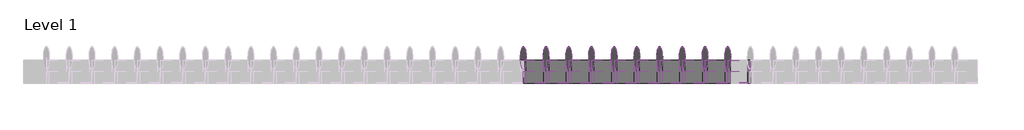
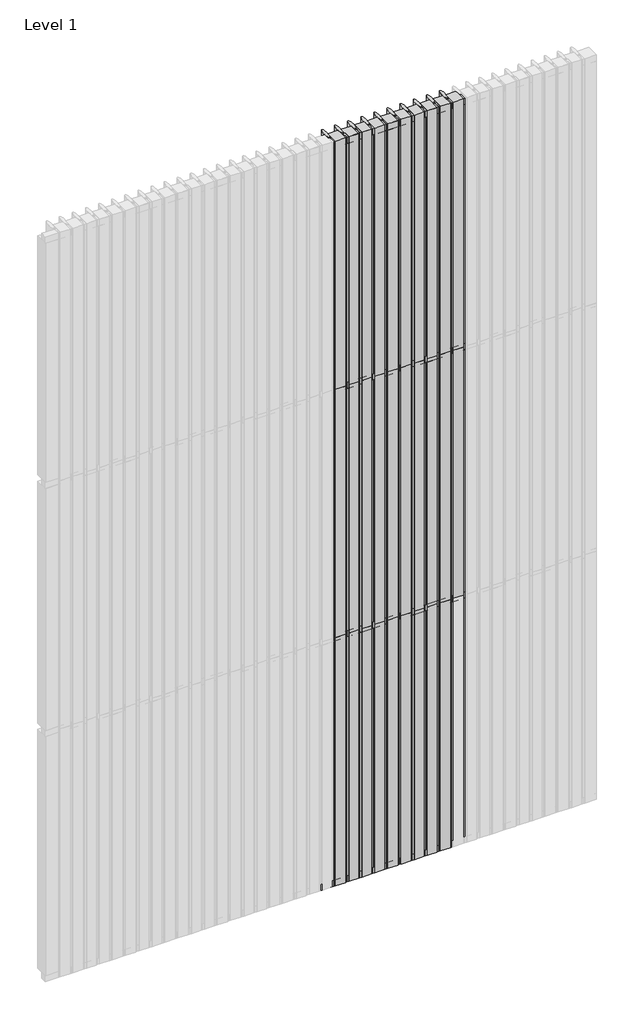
# One storey, part 5 of 6: 70 members, 59 plates.
"""IFC4 building model written with IfcOpenShell, lengths in millimetres."""

from ifc_helpers import new_model, si_unit, origin, place, context, project, spatial, transform, mapped, element, save
from components import rectangular_mullion_31e9810d, rectangular_mullion_cddbc660, rectangular_mullion_a3e25429, rectangular_mullion_ae434dd9, empty_system_panel_empty_de76a839, empty_system_panel_empty_5411477d, empty_system_panel_empty_c50988b4

model = new_model("IFC4")

# Units and contexts
model_context = context("Model", 3, world=origin())
ifc_project = project(units=[si_unit("LENGTHUNIT", "METRE", prefix="MILLI")], contexts=[model_context])

# Site, building, storey
site = spatial("IfcSite", under=ifc_project)
building = spatial("IfcBuilding", under=site)
storey = spatial("IfcBuildingStorey", under=building, Name="Level 1", Elevation=0.0)

# Members
placement = place(None, origin())
rectangular_mullion_shape = rectangular_mullion_31e9810d(model_context)
element("IfcMember", 1, ObjectType="Rectangular Mullion : RSen_21_CWM_blade - 100 ellips - 0°_gen_duco projects", at=placement, inside=storey, context=model_context, shape_type="MappedRepresentation", body=[
    mapped(rectangular_mullion_shape, transform((4900.0, 3000.0, 0.0), x_axis=(-1.0, 0.0, 0.0), y_axis=(0.0, 1.0, 0.0), z_axis=(0.0, 0.0, -1.0))),
])
element("IfcMember", 2, ObjectType="Rectangular Mullion : RSen_21_CWM_blade - 100 ellips - 0°_gen_duco projects", at=placement, inside=storey, context=model_context, shape_type="MappedRepresentation", body=[
    mapped(rectangular_mullion_shape, transform((4800.0, 3000.0, 0.0), x_axis=(-1.0, 0.0, 0.0), y_axis=(0.0, 1.0, 0.0), z_axis=(0.0, 0.0, -1.0))),
])
element("IfcMember", 3, ObjectType="Rectangular Mullion : RSen_21_CWM_blade - 100 ellips - 0°_gen_duco projects", at=placement, inside=storey, context=model_context, shape_type="MappedRepresentation", body=[
    mapped(rectangular_mullion_shape, transform((4700.0, 3000.0, 0.0), x_axis=(-1.0, 0.0, 0.0), y_axis=(0.0, 1.0, 0.0), z_axis=(0.0, 0.0, -1.0))),
])
element("IfcMember", 4, ObjectType="Rectangular Mullion : RSen_21_CWM_blade - 100 ellips - 0°_gen_duco projects", at=placement, inside=storey, context=model_context, shape_type="MappedRepresentation", body=[
    mapped(rectangular_mullion_shape, transform((4600.0, 3000.0, 0.0), x_axis=(-1.0, 0.0, 0.0), y_axis=(0.0, 1.0, 0.0), z_axis=(0.0, 0.0, -1.0))),
])
element("IfcMember", 5, ObjectType="Rectangular Mullion : RSen_21_CWM_blade - 100 ellips - 0°_gen_duco projects", at=placement, inside=storey, context=model_context, shape_type="MappedRepresentation", body=[
    mapped(rectangular_mullion_shape, transform((4500.0, 3000.0, 0.0), x_axis=(-1.0, 0.0, 0.0), y_axis=(0.0, 1.0, 0.0), z_axis=(0.0, 0.0, -1.0))),
])
element("IfcMember", 6, ObjectType="Rectangular Mullion : RSen_21_CWM_blade - 100 ellips - 0°_gen_duco projects", at=placement, inside=storey, context=model_context, shape_type="MappedRepresentation", body=[
    mapped(rectangular_mullion_shape, transform((4400.0, 3000.0, 0.0), x_axis=(-1.0, 0.0, 0.0), y_axis=(0.0, 1.0, 0.0), z_axis=(0.0, 0.0, -1.0))),
])
element("IfcMember", 7, ObjectType="Rectangular Mullion : RSen_21_CWM_blade - 100 ellips - 0°_gen_duco projects", at=placement, inside=storey, context=model_context, shape_type="MappedRepresentation", body=[
    mapped(rectangular_mullion_shape, transform((4300.0, 3000.0, 0.0), x_axis=(-1.0, 0.0, 0.0), y_axis=(0.0, 1.0, 0.0), z_axis=(0.0, 0.0, -1.0))),
])
element("IfcMember", 8, ObjectType="Rectangular Mullion : RSen_21_CWM_blade - 100 ellips - 0°_gen_duco projects", at=placement, inside=storey, context=model_context, shape_type="MappedRepresentation", body=[
    mapped(rectangular_mullion_shape, transform((4200.0, 3000.0, 0.0), x_axis=(-1.0, 0.0, 0.0), y_axis=(0.0, 1.0, 0.0), z_axis=(0.0, 0.0, -1.0))),
])
element("IfcMember", 9, ObjectType="Rectangular Mullion : RSen_21_CWM_blade - 100 ellips - 0°_gen_duco projects", at=placement, inside=storey, context=model_context, shape_type="MappedRepresentation", body=[
    mapped(rectangular_mullion_shape, transform((4100.0, 3000.0, 0.0), x_axis=(-1.0, 0.0, 0.0), y_axis=(0.0, 1.0, 0.0), z_axis=(0.0, 0.0, -1.0))),
])
element("IfcMember", 10, ObjectType="Rectangular Mullion : RSen_21_CWM_blade - 100 ellips - 0°_gen_duco projects", at=placement, inside=storey, context=model_context, shape_type="MappedRepresentation", body=[
    mapped(rectangular_mullion_shape, transform((4000.0, 3000.0, 0.0), x_axis=(-1.0, 0.0, 0.0), y_axis=(0.0, 1.0, 0.0), z_axis=(0.0, 0.0, -1.0))),
])
element("IfcMember", 11, ObjectType="Rectangular Mullion : RSen_21_CWM_blade - 100 ellips - 0°_gen_duco projects", at=placement, inside=storey, context=model_context, shape_type="MappedRepresentation", body=[
    mapped(rectangular_mullion_shape, transform((4900.0, 3000.0, 2000.0), x_axis=(-1.0, 0.0, 0.0), y_axis=(0.0, 1.0, 0.0), z_axis=(0.0, 0.0, -1.0))),
])
element("IfcMember", 12, ObjectType="Rectangular Mullion : RSen_21_CWM_blade - 100 ellips - 0°_gen_duco projects", at=placement, inside=storey, context=model_context, shape_type="MappedRepresentation", body=[
    mapped(rectangular_mullion_shape, transform((4800.0, 3000.0, 2000.0), x_axis=(-1.0, 0.0, 0.0), y_axis=(0.0, 1.0, 0.0), z_axis=(0.0, 0.0, -1.0))),
])
element("IfcMember", 13, ObjectType="Rectangular Mullion : RSen_21_CWM_blade - 100 ellips - 0°_gen_duco projects", at=placement, inside=storey, context=model_context, shape_type="MappedRepresentation", body=[
    mapped(rectangular_mullion_shape, transform((4700.0, 3000.0, 2000.0), x_axis=(-1.0, 0.0, 0.0), y_axis=(0.0, 1.0, 0.0), z_axis=(0.0, 0.0, -1.0))),
])
element("IfcMember", 14, ObjectType="Rectangular Mullion : RSen_21_CWM_blade - 100 ellips - 0°_gen_duco projects", at=placement, inside=storey, context=model_context, shape_type="MappedRepresentation", body=[
    mapped(rectangular_mullion_shape, transform((4600.0, 3000.0, 2000.0), x_axis=(-1.0, 0.0, 0.0), y_axis=(0.0, 1.0, 0.0), z_axis=(0.0, 0.0, -1.0))),
])
element("IfcMember", 15, ObjectType="Rectangular Mullion : RSen_21_CWM_blade - 100 ellips - 0°_gen_duco projects", at=placement, inside=storey, context=model_context, shape_type="MappedRepresentation", body=[
    mapped(rectangular_mullion_shape, transform((4500.0, 3000.0, 2000.0), x_axis=(-1.0, 0.0, 0.0), y_axis=(0.0, 1.0, 0.0), z_axis=(0.0, 0.0, -1.0))),
])
element("IfcMember", 16, ObjectType="Rectangular Mullion : RSen_21_CWM_blade - 100 ellips - 0°_gen_duco projects", at=placement, inside=storey, context=model_context, shape_type="MappedRepresentation", body=[
    mapped(rectangular_mullion_shape, transform((4400.0, 3000.0, 2000.0), x_axis=(-1.0, 0.0, 0.0), y_axis=(0.0, 1.0, 0.0), z_axis=(0.0, 0.0, -1.0))),
])
element("IfcMember", 17, ObjectType="Rectangular Mullion : RSen_21_CWM_blade - 100 ellips - 0°_gen_duco projects", at=placement, inside=storey, context=model_context, shape_type="MappedRepresentation", body=[
    mapped(rectangular_mullion_shape, transform((4300.0, 3000.0, 2000.0), x_axis=(-1.0, 0.0, 0.0), y_axis=(0.0, 1.0, 0.0), z_axis=(0.0, 0.0, -1.0))),
])
element("IfcMember", 18, ObjectType="Rectangular Mullion : RSen_21_CWM_blade - 100 ellips - 0°_gen_duco projects", at=placement, inside=storey, context=model_context, shape_type="MappedRepresentation", body=[
    mapped(rectangular_mullion_shape, transform((4200.0, 3000.0, 2000.0), x_axis=(-1.0, 0.0, 0.0), y_axis=(0.0, 1.0, 0.0), z_axis=(0.0, 0.0, -1.0))),
])
element("IfcMember", 19, ObjectType="Rectangular Mullion : RSen_21_CWM_blade - 100 ellips - 0°_gen_duco projects", at=placement, inside=storey, context=model_context, shape_type="MappedRepresentation", body=[
    mapped(rectangular_mullion_shape, transform((4100.0, 3000.0, 2000.0), x_axis=(-1.0, 0.0, 0.0), y_axis=(0.0, 1.0, 0.0), z_axis=(0.0, 0.0, -1.0))),
])
element("IfcMember", 20, ObjectType="Rectangular Mullion : RSen_21_CWM_blade - 100 ellips - 0°_gen_duco projects", at=placement, inside=storey, context=model_context, shape_type="MappedRepresentation", body=[
    mapped(rectangular_mullion_shape, transform((4000.0, 3000.0, 2000.0), x_axis=(-1.0, 0.0, 0.0), y_axis=(0.0, 1.0, 0.0), z_axis=(0.0, 0.0, -1.0))),
])
element("IfcMember", 21, ObjectType="Rectangular Mullion : RSen_21_CWM_blade - 100 ellips - 0°_gen_duco projects", at=placement, inside=storey, context=model_context, shape_type="MappedRepresentation", body=[
    mapped(rectangular_mullion_shape, transform((4900.0, 3000.0, 4000.0), x_axis=(-1.0, 0.0, 0.0), y_axis=(0.0, 1.0, 0.0), z_axis=(0.0, 0.0, -1.0))),
])
element("IfcMember", 22, ObjectType="Rectangular Mullion : RSen_21_CWM_blade - 100 ellips - 0°_gen_duco projects", at=placement, inside=storey, context=model_context, shape_type="MappedRepresentation", body=[
    mapped(rectangular_mullion_shape, transform((4800.0, 3000.0, 4000.0), x_axis=(-1.0, 0.0, 0.0), y_axis=(0.0, 1.0, 0.0), z_axis=(0.0, 0.0, -1.0))),
])
element("IfcMember", 23, ObjectType="Rectangular Mullion : RSen_21_CWM_blade - 100 ellips - 0°_gen_duco projects", at=placement, inside=storey, context=model_context, shape_type="MappedRepresentation", body=[
    mapped(rectangular_mullion_shape, transform((4700.0, 3000.0, 4000.0), x_axis=(-1.0, 0.0, 0.0), y_axis=(0.0, 1.0, 0.0), z_axis=(0.0, 0.0, -1.0))),
])
element("IfcMember", 24, ObjectType="Rectangular Mullion : RSen_21_CWM_blade - 100 ellips - 0°_gen_duco projects", at=placement, inside=storey, context=model_context, shape_type="MappedRepresentation", body=[
    mapped(rectangular_mullion_shape, transform((4600.0, 3000.0, 4000.0), x_axis=(-1.0, 0.0, 0.0), y_axis=(0.0, 1.0, 0.0), z_axis=(0.0, 0.0, -1.0))),
])
element("IfcMember", 25, ObjectType="Rectangular Mullion : RSen_21_CWM_blade - 100 ellips - 0°_gen_duco projects", at=placement, inside=storey, context=model_context, shape_type="MappedRepresentation", body=[
    mapped(rectangular_mullion_shape, transform((4500.0, 3000.0, 4000.0), x_axis=(-1.0, 0.0, 0.0), y_axis=(0.0, 1.0, 0.0), z_axis=(0.0, 0.0, -1.0))),
])
element("IfcMember", 26, ObjectType="Rectangular Mullion : RSen_21_CWM_blade - 100 ellips - 0°_gen_duco projects", at=placement, inside=storey, context=model_context, shape_type="MappedRepresentation", body=[
    mapped(rectangular_mullion_shape, transform((4400.0, 3000.0, 4000.0), x_axis=(-1.0, 0.0, 0.0), y_axis=(0.0, 1.0, 0.0), z_axis=(0.0, 0.0, -1.0))),
])
element("IfcMember", 27, ObjectType="Rectangular Mullion : RSen_21_CWM_blade - 100 ellips - 0°_gen_duco projects", at=placement, inside=storey, context=model_context, shape_type="MappedRepresentation", body=[
    mapped(rectangular_mullion_shape, transform((4300.0, 3000.0, 4000.0), x_axis=(-1.0, 0.0, 0.0), y_axis=(0.0, 1.0, 0.0), z_axis=(0.0, 0.0, -1.0))),
])
element("IfcMember", 28, ObjectType="Rectangular Mullion : RSen_21_CWM_blade - 100 ellips - 0°_gen_duco projects", at=placement, inside=storey, context=model_context, shape_type="MappedRepresentation", body=[
    mapped(rectangular_mullion_shape, transform((4200.0, 3000.0, 4000.0), x_axis=(-1.0, 0.0, 0.0), y_axis=(0.0, 1.0, 0.0), z_axis=(0.0, 0.0, -1.0))),
])
element("IfcMember", 29, ObjectType="Rectangular Mullion : RSen_21_CWM_blade - 100 ellips - 0°_gen_duco projects", at=placement, inside=storey, context=model_context, shape_type="MappedRepresentation", body=[
    mapped(rectangular_mullion_shape, transform((4100.0, 3000.0, 4000.0), x_axis=(-1.0, 0.0, 0.0), y_axis=(0.0, 1.0, 0.0), z_axis=(0.0, 0.0, -1.0))),
])
element("IfcMember", 30, ObjectType="Rectangular Mullion : RSen_21_CWM_blade - 100 ellips - 0°_gen_duco projects", at=placement, inside=storey, context=model_context, shape_type="MappedRepresentation", body=[
    mapped(rectangular_mullion_shape, transform((4000.0, 3000.0, 4000.0), x_axis=(-1.0, 0.0, 0.0), y_axis=(0.0, 1.0, 0.0), z_axis=(0.0, 0.0, -1.0))),
])
rectangular_mullion_2_shape = rectangular_mullion_cddbc660(model_context)
element("IfcMember", 31, ObjectType="Rectangular Mullion : RSen_21_CWM_support profile 50x50 - left_gen_duco projects", at=placement, inside=storey, context=model_context, shape_type="MappedRepresentation", body=[
    mapped(rectangular_mullion_2_shape, transform((4900.0, 3000.0, 6000.0), x_axis=(0.0, 0.0, 1.0), y_axis=(0.0, 1.0, 0.0), z_axis=(-1.0, 0.0, 0.0))),
])
element("IfcMember", 32, ObjectType="Rectangular Mullion : RSen_21_CWM_support profile 50x50 - left_gen_duco projects", at=placement, inside=storey, context=model_context, shape_type="MappedRepresentation", body=[
    mapped(rectangular_mullion_2_shape, transform((4800.0, 3000.0, 6000.0), x_axis=(0.0, 0.0, 1.0), y_axis=(0.0, 1.0, 0.0), z_axis=(-1.0, 0.0, 0.0))),
])
element("IfcMember", 33, ObjectType="Rectangular Mullion : RSen_21_CWM_support profile 50x50 - left_gen_duco projects", at=placement, inside=storey, context=model_context, shape_type="MappedRepresentation", body=[
    mapped(rectangular_mullion_2_shape, transform((4700.0, 3000.0, 6000.0), x_axis=(0.0, 0.0, 1.0), y_axis=(0.0, 1.0, 0.0), z_axis=(-1.0, 0.0, 0.0))),
])
element("IfcMember", 34, ObjectType="Rectangular Mullion : RSen_21_CWM_support profile 50x50 - left_gen_duco projects", at=placement, inside=storey, context=model_context, shape_type="MappedRepresentation", body=[
    mapped(rectangular_mullion_2_shape, transform((4600.0, 3000.0, 6000.0), x_axis=(0.0, 0.0, 1.0), y_axis=(0.0, 1.0, 0.0), z_axis=(-1.0, 0.0, 0.0))),
])
element("IfcMember", 35, ObjectType="Rectangular Mullion : RSen_21_CWM_support profile 50x50 - left_gen_duco projects", at=placement, inside=storey, context=model_context, shape_type="MappedRepresentation", body=[
    mapped(rectangular_mullion_2_shape, transform((4500.0, 3000.0, 6000.0), x_axis=(0.0, 0.0, 1.0), y_axis=(0.0, 1.0, 0.0), z_axis=(-1.0, 0.0, 0.0))),
])
element("IfcMember", 36, ObjectType="Rectangular Mullion : RSen_21_CWM_support profile 50x50 - left_gen_duco projects", at=placement, inside=storey, context=model_context, shape_type="MappedRepresentation", body=[
    mapped(rectangular_mullion_2_shape, transform((4400.0, 3000.0, 6000.0), x_axis=(0.0, 0.0, 1.0), y_axis=(0.0, 1.0, 0.0), z_axis=(-1.0, 0.0, 0.0))),
])
element("IfcMember", 37, ObjectType="Rectangular Mullion : RSen_21_CWM_support profile 50x50 - left_gen_duco projects", at=placement, inside=storey, context=model_context, shape_type="MappedRepresentation", body=[
    mapped(rectangular_mullion_2_shape, transform((4300.0, 3000.0, 6000.0), x_axis=(0.0, 0.0, 1.0), y_axis=(0.0, 1.0, 0.0), z_axis=(-1.0, 0.0, 0.0))),
])
element("IfcMember", 38, ObjectType="Rectangular Mullion : RSen_21_CWM_support profile 50x50 - left_gen_duco projects", at=placement, inside=storey, context=model_context, shape_type="MappedRepresentation", body=[
    mapped(rectangular_mullion_2_shape, transform((4200.0, 3000.0, 6000.0), x_axis=(0.0, 0.0, 1.0), y_axis=(0.0, 1.0, 0.0), z_axis=(-1.0, 0.0, 0.0))),
])
element("IfcMember", 39, ObjectType="Rectangular Mullion : RSen_21_CWM_support profile 50x50 - left_gen_duco projects", at=placement, inside=storey, context=model_context, shape_type="MappedRepresentation", body=[
    mapped(rectangular_mullion_2_shape, transform((4100.0, 3000.0, 6000.0), x_axis=(0.0, 0.0, 1.0), y_axis=(0.0, 1.0, 0.0), z_axis=(-1.0, 0.0, 0.0))),
])
element("IfcMember", 40, ObjectType="Rectangular Mullion : RSen_21_CWM_support profile 50x50 - left_gen_duco projects", at=placement, inside=storey, context=model_context, shape_type="MappedRepresentation", body=[
    mapped(rectangular_mullion_2_shape, transform((4000.0, 3000.0, 6000.0), x_axis=(0.0, 0.0, 1.0), y_axis=(0.0, 1.0, 0.0), z_axis=(-1.0, 0.0, 0.0))),
])
rectangular_mullion_3_shape = rectangular_mullion_a3e25429(model_context)
element("IfcMember", 41, ObjectType="Rectangular Mullion : RSen_21_CWM_support profile 50x50 - right_gen_duco projects", at=placement, inside=storey, context=model_context, shape_type="MappedRepresentation", body=[
    mapped(rectangular_mullion_3_shape, transform((4900.0, 3000.0, 0.0), x_axis=(0.0, 0.0, -1.0), y_axis=(0.0, 1.0, 0.0), z_axis=(1.0, 0.0, 0.0))),
])
element("IfcMember", 42, ObjectType="Rectangular Mullion : RSen_21_CWM_support profile 50x50 - right_gen_duco projects", at=placement, inside=storey, context=model_context, shape_type="MappedRepresentation", body=[
    mapped(rectangular_mullion_3_shape, transform((4800.0, 3000.0, 0.0), x_axis=(0.0, 0.0, -1.0), y_axis=(0.0, 1.0, 0.0), z_axis=(1.0, 0.0, 0.0))),
])
element("IfcMember", 43, ObjectType="Rectangular Mullion : RSen_21_CWM_support profile 50x50 - right_gen_duco projects", at=placement, inside=storey, context=model_context, shape_type="MappedRepresentation", body=[
    mapped(rectangular_mullion_3_shape, transform((4700.0, 3000.0, 0.0), x_axis=(0.0, 0.0, -1.0), y_axis=(0.0, 1.0, 0.0), z_axis=(1.0, 0.0, 0.0))),
])
element("IfcMember", 44, ObjectType="Rectangular Mullion : RSen_21_CWM_support profile 50x50 - right_gen_duco projects", at=placement, inside=storey, context=model_context, shape_type="MappedRepresentation", body=[
    mapped(rectangular_mullion_3_shape, transform((4600.0, 3000.0, 0.0), x_axis=(0.0, 0.0, -1.0), y_axis=(0.0, 1.0, 0.0), z_axis=(1.0, 0.0, 0.0))),
])
element("IfcMember", 45, ObjectType="Rectangular Mullion : RSen_21_CWM_support profile 50x50 - right_gen_duco projects", at=placement, inside=storey, context=model_context, shape_type="MappedRepresentation", body=[
    mapped(rectangular_mullion_3_shape, transform((4500.0, 3000.0, 0.0), x_axis=(0.0, 0.0, -1.0), y_axis=(0.0, 1.0, 0.0), z_axis=(1.0, 0.0, 0.0))),
])
element("IfcMember", 46, ObjectType="Rectangular Mullion : RSen_21_CWM_support profile 50x50 - right_gen_duco projects", at=placement, inside=storey, context=model_context, shape_type="MappedRepresentation", body=[
    mapped(rectangular_mullion_3_shape, transform((4400.0, 3000.0, 0.0), x_axis=(0.0, 0.0, -1.0), y_axis=(0.0, 1.0, 0.0), z_axis=(1.0, 0.0, 0.0))),
])
element("IfcMember", 47, ObjectType="Rectangular Mullion : RSen_21_CWM_support profile 50x50 - right_gen_duco projects", at=placement, inside=storey, context=model_context, shape_type="MappedRepresentation", body=[
    mapped(rectangular_mullion_3_shape, transform((4300.0, 3000.0, 0.0), x_axis=(0.0, 0.0, -1.0), y_axis=(0.0, 1.0, 0.0), z_axis=(1.0, 0.0, 0.0))),
])
element("IfcMember", 48, ObjectType="Rectangular Mullion : RSen_21_CWM_support profile 50x50 - right_gen_duco projects", at=placement, inside=storey, context=model_context, shape_type="MappedRepresentation", body=[
    mapped(rectangular_mullion_3_shape, transform((4200.0, 3000.0, 0.0), x_axis=(0.0, 0.0, -1.0), y_axis=(0.0, 1.0, 0.0), z_axis=(1.0, 0.0, 0.0))),
])
element("IfcMember", 49, ObjectType="Rectangular Mullion : RSen_21_CWM_support profile 50x50 - right_gen_duco projects", at=placement, inside=storey, context=model_context, shape_type="MappedRepresentation", body=[
    mapped(rectangular_mullion_3_shape, transform((4100.0, 3000.0, 0.0), x_axis=(0.0, 0.0, -1.0), y_axis=(0.0, 1.0, 0.0), z_axis=(1.0, 0.0, 0.0))),
])
element("IfcMember", 50, ObjectType="Rectangular Mullion : RSen_21_CWM_support profile 50x50 - right_gen_duco projects", at=placement, inside=storey, context=model_context, shape_type="MappedRepresentation", body=[
    mapped(rectangular_mullion_3_shape, transform((4000.0, 3000.0, 0.0), x_axis=(0.0, 0.0, -1.0), y_axis=(0.0, 1.0, 0.0), z_axis=(1.0, 0.0, 0.0))),
])
rectangular_mullion_4_shape = rectangular_mullion_ae434dd9(model_context)
element("IfcMember", 51, ObjectType="Rectangular Mullion : RSen_21_CWM_support profile 50x50_gen_duco projects", at=placement, inside=storey, context=model_context, shape_type="MappedRepresentation", body=[
    mapped(rectangular_mullion_4_shape, transform((4900.0, 3000.0, 2000.0), x_axis=(0.0, 0.0, 1.0), y_axis=(0.0, 1.0, 0.0), z_axis=(-1.0, 0.0, 0.0))),
])
element("IfcMember", 52, ObjectType="Rectangular Mullion : RSen_21_CWM_support profile 50x50_gen_duco projects", at=placement, inside=storey, context=model_context, shape_type="MappedRepresentation", body=[
    mapped(rectangular_mullion_4_shape, transform((4800.0, 3000.0, 2000.0), x_axis=(0.0, 0.0, 1.0), y_axis=(0.0, 1.0, 0.0), z_axis=(-1.0, 0.0, 0.0))),
])
element("IfcMember", 53, ObjectType="Rectangular Mullion : RSen_21_CWM_support profile 50x50_gen_duco projects", at=placement, inside=storey, context=model_context, shape_type="MappedRepresentation", body=[
    mapped(rectangular_mullion_4_shape, transform((4700.0, 3000.0, 2000.0), x_axis=(0.0, 0.0, 1.0), y_axis=(0.0, 1.0, 0.0), z_axis=(-1.0, 0.0, 0.0))),
])
element("IfcMember", 54, ObjectType="Rectangular Mullion : RSen_21_CWM_support profile 50x50_gen_duco projects", at=placement, inside=storey, context=model_context, shape_type="MappedRepresentation", body=[
    mapped(rectangular_mullion_4_shape, transform((4600.0, 3000.0, 2000.0), x_axis=(0.0, 0.0, 1.0), y_axis=(0.0, 1.0, 0.0), z_axis=(-1.0, 0.0, 0.0))),
])
element("IfcMember", 55, ObjectType="Rectangular Mullion : RSen_21_CWM_support profile 50x50_gen_duco projects", at=placement, inside=storey, context=model_context, shape_type="MappedRepresentation", body=[
    mapped(rectangular_mullion_4_shape, transform((4500.0, 3000.0, 2000.0), x_axis=(0.0, 0.0, 1.0), y_axis=(0.0, 1.0, 0.0), z_axis=(-1.0, 0.0, 0.0))),
])
element("IfcMember", 56, ObjectType="Rectangular Mullion : RSen_21_CWM_support profile 50x50_gen_duco projects", at=placement, inside=storey, context=model_context, shape_type="MappedRepresentation", body=[
    mapped(rectangular_mullion_4_shape, transform((4400.0, 3000.0, 2000.0), x_axis=(0.0, 0.0, 1.0), y_axis=(0.0, 1.0, 0.0), z_axis=(-1.0, 0.0, 0.0))),
])
element("IfcMember", 57, ObjectType="Rectangular Mullion : RSen_21_CWM_support profile 50x50_gen_duco projects", at=placement, inside=storey, context=model_context, shape_type="MappedRepresentation", body=[
    mapped(rectangular_mullion_4_shape, transform((4300.0, 3000.0, 2000.0), x_axis=(0.0, 0.0, 1.0), y_axis=(0.0, 1.0, 0.0), z_axis=(-1.0, 0.0, 0.0))),
])
element("IfcMember", 58, ObjectType="Rectangular Mullion : RSen_21_CWM_support profile 50x50_gen_duco projects", at=placement, inside=storey, context=model_context, shape_type="MappedRepresentation", body=[
    mapped(rectangular_mullion_4_shape, transform((4200.0, 3000.0, 2000.0), x_axis=(0.0, 0.0, 1.0), y_axis=(0.0, 1.0, 0.0), z_axis=(-1.0, 0.0, 0.0))),
])
element("IfcMember", 59, ObjectType="Rectangular Mullion : RSen_21_CWM_support profile 50x50_gen_duco projects", at=placement, inside=storey, context=model_context, shape_type="MappedRepresentation", body=[
    mapped(rectangular_mullion_4_shape, transform((4100.0, 3000.0, 2000.0), x_axis=(0.0, 0.0, 1.0), y_axis=(0.0, 1.0, 0.0), z_axis=(-1.0, 0.0, 0.0))),
])
element("IfcMember", 60, ObjectType="Rectangular Mullion : RSen_21_CWM_support profile 50x50_gen_duco projects", at=placement, inside=storey, context=model_context, shape_type="MappedRepresentation", body=[
    mapped(rectangular_mullion_4_shape, transform((4000.0, 3000.0, 2000.0), x_axis=(0.0, 0.0, 1.0), y_axis=(0.0, 1.0, 0.0), z_axis=(-1.0, 0.0, 0.0))),
])
element("IfcMember", 61, ObjectType="Rectangular Mullion : RSen_21_CWM_support profile 50x50_gen_duco projects", at=placement, inside=storey, context=model_context, shape_type="MappedRepresentation", body=[
    mapped(rectangular_mullion_4_shape, transform((4900.0, 3000.0, 4000.0), x_axis=(0.0, 0.0, 1.0), y_axis=(0.0, 1.0, 0.0), z_axis=(-1.0, 0.0, 0.0))),
])
element("IfcMember", 62, ObjectType="Rectangular Mullion : RSen_21_CWM_support profile 50x50_gen_duco projects", at=placement, inside=storey, context=model_context, shape_type="MappedRepresentation", body=[
    mapped(rectangular_mullion_4_shape, transform((4800.0, 3000.0, 4000.0), x_axis=(0.0, 0.0, 1.0), y_axis=(0.0, 1.0, 0.0), z_axis=(-1.0, 0.0, 0.0))),
])
element("IfcMember", 63, ObjectType="Rectangular Mullion : RSen_21_CWM_support profile 50x50_gen_duco projects", at=placement, inside=storey, context=model_context, shape_type="MappedRepresentation", body=[
    mapped(rectangular_mullion_4_shape, transform((4700.0, 3000.0, 4000.0), x_axis=(0.0, 0.0, 1.0), y_axis=(0.0, 1.0, 0.0), z_axis=(-1.0, 0.0, 0.0))),
])
element("IfcMember", 64, ObjectType="Rectangular Mullion : RSen_21_CWM_support profile 50x50_gen_duco projects", at=placement, inside=storey, context=model_context, shape_type="MappedRepresentation", body=[
    mapped(rectangular_mullion_4_shape, transform((4600.0, 3000.0, 4000.0), x_axis=(0.0, 0.0, 1.0), y_axis=(0.0, 1.0, 0.0), z_axis=(-1.0, 0.0, 0.0))),
])
element("IfcMember", 65, ObjectType="Rectangular Mullion : RSen_21_CWM_support profile 50x50_gen_duco projects", at=placement, inside=storey, context=model_context, shape_type="MappedRepresentation", body=[
    mapped(rectangular_mullion_4_shape, transform((4500.0, 3000.0, 4000.0), x_axis=(0.0, 0.0, 1.0), y_axis=(0.0, 1.0, 0.0), z_axis=(-1.0, 0.0, 0.0))),
])
element("IfcMember", 66, ObjectType="Rectangular Mullion : RSen_21_CWM_support profile 50x50_gen_duco projects", at=placement, inside=storey, context=model_context, shape_type="MappedRepresentation", body=[
    mapped(rectangular_mullion_4_shape, transform((4400.0, 3000.0, 4000.0), x_axis=(0.0, 0.0, 1.0), y_axis=(0.0, 1.0, 0.0), z_axis=(-1.0, 0.0, 0.0))),
])
element("IfcMember", 67, ObjectType="Rectangular Mullion : RSen_21_CWM_support profile 50x50_gen_duco projects", at=placement, inside=storey, context=model_context, shape_type="MappedRepresentation", body=[
    mapped(rectangular_mullion_4_shape, transform((4300.0, 3000.0, 4000.0), x_axis=(0.0, 0.0, 1.0), y_axis=(0.0, 1.0, 0.0), z_axis=(-1.0, 0.0, 0.0))),
])
element("IfcMember", 68, ObjectType="Rectangular Mullion : RSen_21_CWM_support profile 50x50_gen_duco projects", at=placement, inside=storey, context=model_context, shape_type="MappedRepresentation", body=[
    mapped(rectangular_mullion_4_shape, transform((4200.0, 3000.0, 4000.0), x_axis=(0.0, 0.0, 1.0), y_axis=(0.0, 1.0, 0.0), z_axis=(-1.0, 0.0, 0.0))),
])
element("IfcMember", 69, ObjectType="Rectangular Mullion : RSen_21_CWM_support profile 50x50_gen_duco projects", at=placement, inside=storey, context=model_context, shape_type="MappedRepresentation", body=[
    mapped(rectangular_mullion_4_shape, transform((4100.0, 3000.0, 4000.0), x_axis=(0.0, 0.0, 1.0), y_axis=(0.0, 1.0, 0.0), z_axis=(-1.0, 0.0, 0.0))),
])
element("IfcMember", 70, ObjectType="Rectangular Mullion : RSen_21_CWM_support profile 50x50_gen_duco projects", at=placement, inside=storey, context=model_context, shape_type="MappedRepresentation", body=[
    mapped(rectangular_mullion_4_shape, transform((4000.0, 3000.0, 4000.0), x_axis=(0.0, 0.0, 1.0), y_axis=(0.0, 1.0, 0.0), z_axis=(-1.0, 0.0, 0.0))),
])

# Plates
empty_system_panel_empty_shape = empty_system_panel_empty_de76a839(model_context)
element("IfcPlate", 71, ObjectType="Empty System Panel : Empty", at=placement, inside=storey, context=model_context, shape_type="MappedRepresentation", body=[
    mapped(empty_system_panel_empty_shape, transform((4850.0, 3000.0, 0.0), x_axis=(-1.0, 0.0, 0.0), y_axis=(0.0, -1.0, 0.0), z_axis=(0.0, 0.0, 1.0))),
])
element("IfcPlate", 72, ObjectType="Empty System Panel : Empty", at=placement, inside=storey, context=model_context, shape_type="MappedRepresentation", body=[
    mapped(empty_system_panel_empty_shape, transform((4750.0, 3000.0, 0.0), x_axis=(-1.0, 0.0, 0.0), y_axis=(0.0, -1.0, 0.0), z_axis=(0.0, 0.0, 1.0))),
])
element("IfcPlate", 73, ObjectType="Empty System Panel : Empty", at=placement, inside=storey, context=model_context, shape_type="MappedRepresentation", body=[
    mapped(empty_system_panel_empty_shape, transform((4650.0, 3000.0, 0.0), x_axis=(-1.0, 0.0, 0.0), y_axis=(0.0, -1.0, 0.0), z_axis=(0.0, 0.0, 1.0))),
])
element("IfcPlate", 74, ObjectType="Empty System Panel : Empty", at=placement, inside=storey, context=model_context, shape_type="MappedRepresentation", body=[
    mapped(empty_system_panel_empty_shape, transform((4550.0, 3000.0, 0.0), x_axis=(-1.0, 0.0, 0.0), y_axis=(0.0, -1.0, 0.0), z_axis=(0.0, 0.0, 1.0))),
])
element("IfcPlate", 75, ObjectType="Empty System Panel : Empty", at=placement, inside=storey, context=model_context, shape_type="MappedRepresentation", body=[
    mapped(empty_system_panel_empty_shape, transform((4450.0, 3000.0, 0.0), x_axis=(-1.0, 0.0, 0.0), y_axis=(0.0, -1.0, 0.0), z_axis=(0.0, 0.0, 1.0))),
])
element("IfcPlate", 76, ObjectType="Empty System Panel : Empty", at=placement, inside=storey, context=model_context, shape_type="MappedRepresentation", body=[
    mapped(empty_system_panel_empty_shape, transform((4350.0, 3000.0, 0.0), x_axis=(-1.0, 0.0, 0.0), y_axis=(0.0, -1.0, 0.0), z_axis=(0.0, 0.0, 1.0))),
])
element("IfcPlate", 77, ObjectType="Empty System Panel : Empty", at=placement, inside=storey, context=model_context, shape_type="MappedRepresentation", body=[
    mapped(empty_system_panel_empty_shape, transform((4250.0, 3000.0, 0.0), x_axis=(-1.0, 0.0, 0.0), y_axis=(0.0, -1.0, 0.0), z_axis=(0.0, 0.0, 1.0))),
])
element("IfcPlate", 78, ObjectType="Empty System Panel : Empty", at=placement, inside=storey, context=model_context, shape_type="MappedRepresentation", body=[
    mapped(empty_system_panel_empty_shape, transform((4150.0, 3000.0, 0.0), x_axis=(-1.0, 0.0, 0.0), y_axis=(0.0, -1.0, 0.0), z_axis=(0.0, 0.0, 1.0))),
])
element("IfcPlate", 79, ObjectType="Empty System Panel : Empty", at=placement, inside=storey, context=model_context, shape_type="MappedRepresentation", body=[
    mapped(empty_system_panel_empty_shape, transform((4050.0, 3000.0, 0.0), x_axis=(-1.0, 0.0, 0.0), y_axis=(0.0, -1.0, 0.0), z_axis=(0.0, 0.0, 1.0))),
])
element("IfcPlate", 80, ObjectType="Empty System Panel : Empty", at=placement, inside=storey, context=model_context, shape_type="MappedRepresentation", body=[
    mapped(empty_system_panel_empty_shape, transform((4950.0, 3000.0, 2000.0), x_axis=(-1.0, 0.0, 0.0), y_axis=(0.0, -1.0, 0.0), z_axis=(0.0, 0.0, 1.0))),
])
element("IfcPlate", 81, ObjectType="Empty System Panel : Empty", at=placement, inside=storey, context=model_context, shape_type="MappedRepresentation", body=[
    mapped(empty_system_panel_empty_shape, transform((4850.0, 3000.0, 2000.0), x_axis=(-1.0, 0.0, 0.0), y_axis=(0.0, -1.0, 0.0), z_axis=(0.0, 0.0, 1.0))),
])
element("IfcPlate", 82, ObjectType="Empty System Panel : Empty", at=placement, inside=storey, context=model_context, shape_type="MappedRepresentation", body=[
    mapped(empty_system_panel_empty_shape, transform((4750.0, 3000.0, 2000.0), x_axis=(-1.0, 0.0, 0.0), y_axis=(0.0, -1.0, 0.0), z_axis=(0.0, 0.0, 1.0))),
])
element("IfcPlate", 83, ObjectType="Empty System Panel : Empty", at=placement, inside=storey, context=model_context, shape_type="MappedRepresentation", body=[
    mapped(empty_system_panel_empty_shape, transform((4650.0, 3000.0, 2000.0), x_axis=(-1.0, 0.0, 0.0), y_axis=(0.0, -1.0, 0.0), z_axis=(0.0, 0.0, 1.0))),
])
element("IfcPlate", 84, ObjectType="Empty System Panel : Empty", at=placement, inside=storey, context=model_context, shape_type="MappedRepresentation", body=[
    mapped(empty_system_panel_empty_shape, transform((4550.0, 3000.0, 2000.0), x_axis=(-1.0, 0.0, 0.0), y_axis=(0.0, -1.0, 0.0), z_axis=(0.0, 0.0, 1.0))),
])
element("IfcPlate", 85, ObjectType="Empty System Panel : Empty", at=placement, inside=storey, context=model_context, shape_type="MappedRepresentation", body=[
    mapped(empty_system_panel_empty_shape, transform((4450.0, 3000.0, 2000.0), x_axis=(-1.0, 0.0, 0.0), y_axis=(0.0, -1.0, 0.0), z_axis=(0.0, 0.0, 1.0))),
])
element("IfcPlate", 86, ObjectType="Empty System Panel : Empty", at=placement, inside=storey, context=model_context, shape_type="MappedRepresentation", body=[
    mapped(empty_system_panel_empty_shape, transform((4350.0, 3000.0, 2000.0), x_axis=(-1.0, 0.0, 0.0), y_axis=(0.0, -1.0, 0.0), z_axis=(0.0, 0.0, 1.0))),
])
element("IfcPlate", 87, ObjectType="Empty System Panel : Empty", at=placement, inside=storey, context=model_context, shape_type="MappedRepresentation", body=[
    mapped(empty_system_panel_empty_shape, transform((4250.0, 3000.0, 2000.0), x_axis=(-1.0, 0.0, 0.0), y_axis=(0.0, -1.0, 0.0), z_axis=(0.0, 0.0, 1.0))),
])
element("IfcPlate", 88, ObjectType="Empty System Panel : Empty", at=placement, inside=storey, context=model_context, shape_type="MappedRepresentation", body=[
    mapped(empty_system_panel_empty_shape, transform((4150.0, 3000.0, 2000.0), x_axis=(-1.0, 0.0, 0.0), y_axis=(0.0, -1.0, 0.0), z_axis=(0.0, 0.0, 1.0))),
])
element("IfcPlate", 89, ObjectType="Empty System Panel : Empty", at=placement, inside=storey, context=model_context, shape_type="MappedRepresentation", body=[
    mapped(empty_system_panel_empty_shape, transform((4050.0, 3000.0, 2000.0), x_axis=(-1.0, 0.0, 0.0), y_axis=(0.0, -1.0, 0.0), z_axis=(0.0, 0.0, 1.0))),
])
element("IfcPlate", 90, ObjectType="Empty System Panel : Empty", at=placement, inside=storey, context=model_context, shape_type="MappedRepresentation", body=[
    mapped(empty_system_panel_empty_shape, transform((4950.0, 3000.0, 4000.0), x_axis=(-1.0, 0.0, 0.0), y_axis=(0.0, -1.0, 0.0), z_axis=(0.0, 0.0, 1.0))),
])
element("IfcPlate", 91, ObjectType="Empty System Panel : Empty", at=placement, inside=storey, context=model_context, shape_type="MappedRepresentation", body=[
    mapped(empty_system_panel_empty_shape, transform((4850.0, 3000.0, 4000.0), x_axis=(-1.0, 0.0, 0.0), y_axis=(0.0, -1.0, 0.0), z_axis=(0.0, 0.0, 1.0))),
])
element("IfcPlate", 92, ObjectType="Empty System Panel : Empty", at=placement, inside=storey, context=model_context, shape_type="MappedRepresentation", body=[
    mapped(empty_system_panel_empty_shape, transform((4750.0, 3000.0, 4000.0), x_axis=(-1.0, 0.0, 0.0), y_axis=(0.0, -1.0, 0.0), z_axis=(0.0, 0.0, 1.0))),
])
element("IfcPlate", 93, ObjectType="Empty System Panel : Empty", at=placement, inside=storey, context=model_context, shape_type="MappedRepresentation", body=[
    mapped(empty_system_panel_empty_shape, transform((4650.0, 3000.0, 4000.0), x_axis=(-1.0, 0.0, 0.0), y_axis=(0.0, -1.0, 0.0), z_axis=(0.0, 0.0, 1.0))),
])
element("IfcPlate", 94, ObjectType="Empty System Panel : Empty", at=placement, inside=storey, context=model_context, shape_type="MappedRepresentation", body=[
    mapped(empty_system_panel_empty_shape, transform((4550.0, 3000.0, 4000.0), x_axis=(-1.0, 0.0, 0.0), y_axis=(0.0, -1.0, 0.0), z_axis=(0.0, 0.0, 1.0))),
])
element("IfcPlate", 95, ObjectType="Empty System Panel : Empty", at=placement, inside=storey, context=model_context, shape_type="MappedRepresentation", body=[
    mapped(empty_system_panel_empty_shape, transform((4450.0, 3000.0, 4000.0), x_axis=(-1.0, 0.0, 0.0), y_axis=(0.0, -1.0, 0.0), z_axis=(0.0, 0.0, 1.0))),
])
element("IfcPlate", 96, ObjectType="Empty System Panel : Empty", at=placement, inside=storey, context=model_context, shape_type="MappedRepresentation", body=[
    mapped(empty_system_panel_empty_shape, transform((4350.0, 3000.0, 4000.0), x_axis=(-1.0, 0.0, 0.0), y_axis=(0.0, -1.0, 0.0), z_axis=(0.0, 0.0, 1.0))),
])
element("IfcPlate", 97, ObjectType="Empty System Panel : Empty", at=placement, inside=storey, context=model_context, shape_type="MappedRepresentation", body=[
    mapped(empty_system_panel_empty_shape, transform((4250.0, 3000.0, 4000.0), x_axis=(-1.0, 0.0, 0.0), y_axis=(0.0, -1.0, 0.0), z_axis=(0.0, 0.0, 1.0))),
])
element("IfcPlate", 98, ObjectType="Empty System Panel : Empty", at=placement, inside=storey, context=model_context, shape_type="MappedRepresentation", body=[
    mapped(empty_system_panel_empty_shape, transform((4150.0, 3000.0, 4000.0), x_axis=(-1.0, 0.0, 0.0), y_axis=(0.0, -1.0, 0.0), z_axis=(0.0, 0.0, 1.0))),
])
element("IfcPlate", 99, ObjectType="Empty System Panel : Empty", at=placement, inside=storey, context=model_context, shape_type="MappedRepresentation", body=[
    mapped(empty_system_panel_empty_shape, transform((4050.0, 3000.0, 4000.0), x_axis=(-1.0, 0.0, 0.0), y_axis=(0.0, -1.0, 0.0), z_axis=(0.0, 0.0, 1.0))),
])
empty_system_panel_empty_2_shape = empty_system_panel_empty_5411477d(model_context)
element("IfcPlate", 100, ObjectType="Empty System Panel : Empty", at=placement, inside=storey, context=model_context, shape_type="MappedRepresentation", body=[
    mapped(empty_system_panel_empty_2_shape, transform((4950.0, 3000.0, 50.0), x_axis=(-1.0, 0.0, 0.0), y_axis=(0.0, -1.0, 0.0), z_axis=(0.0, 0.0, 1.0))),
])
element("IfcPlate", 101, ObjectType="Empty System Panel : Empty", at=placement, inside=storey, context=model_context, shape_type="MappedRepresentation", body=[
    mapped(empty_system_panel_empty_2_shape, transform((4850.0, 3000.0, 50.0), x_axis=(-1.0, 0.0, 0.0), y_axis=(0.0, -1.0, 0.0), z_axis=(0.0, 0.0, 1.0))),
])
element("IfcPlate", 102, ObjectType="Empty System Panel : Empty", at=placement, inside=storey, context=model_context, shape_type="MappedRepresentation", body=[
    mapped(empty_system_panel_empty_2_shape, transform((4750.0, 3000.0, 50.0), x_axis=(-1.0, 0.0, 0.0), y_axis=(0.0, -1.0, 0.0), z_axis=(0.0, 0.0, 1.0))),
])
element("IfcPlate", 103, ObjectType="Empty System Panel : Empty", at=placement, inside=storey, context=model_context, shape_type="MappedRepresentation", body=[
    mapped(empty_system_panel_empty_2_shape, transform((4650.0, 3000.0, 50.0), x_axis=(-1.0, 0.0, 0.0), y_axis=(0.0, -1.0, 0.0), z_axis=(0.0, 0.0, 1.0))),
])
element("IfcPlate", 104, ObjectType="Empty System Panel : Empty", at=placement, inside=storey, context=model_context, shape_type="MappedRepresentation", body=[
    mapped(empty_system_panel_empty_2_shape, transform((4550.0, 3000.0, 50.0), x_axis=(-1.0, 0.0, 0.0), y_axis=(0.0, -1.0, 0.0), z_axis=(0.0, 0.0, 1.0))),
])
element("IfcPlate", 105, ObjectType="Empty System Panel : Empty", at=placement, inside=storey, context=model_context, shape_type="MappedRepresentation", body=[
    mapped(empty_system_panel_empty_2_shape, transform((4450.0, 3000.0, 50.0), x_axis=(-1.0, 0.0, 0.0), y_axis=(0.0, -1.0, 0.0), z_axis=(0.0, 0.0, 1.0))),
])
element("IfcPlate", 106, ObjectType="Empty System Panel : Empty", at=placement, inside=storey, context=model_context, shape_type="MappedRepresentation", body=[
    mapped(empty_system_panel_empty_2_shape, transform((4350.0, 3000.0, 50.0), x_axis=(-1.0, 0.0, 0.0), y_axis=(0.0, -1.0, 0.0), z_axis=(0.0, 0.0, 1.0))),
])
element("IfcPlate", 107, ObjectType="Empty System Panel : Empty", at=placement, inside=storey, context=model_context, shape_type="MappedRepresentation", body=[
    mapped(empty_system_panel_empty_2_shape, transform((4250.0, 3000.0, 50.0), x_axis=(-1.0, 0.0, 0.0), y_axis=(0.0, -1.0, 0.0), z_axis=(0.0, 0.0, 1.0))),
])
element("IfcPlate", 108, ObjectType="Empty System Panel : Empty", at=placement, inside=storey, context=model_context, shape_type="MappedRepresentation", body=[
    mapped(empty_system_panel_empty_2_shape, transform((4150.0, 3000.0, 50.0), x_axis=(-1.0, 0.0, 0.0), y_axis=(0.0, -1.0, 0.0), z_axis=(0.0, 0.0, 1.0))),
])
element("IfcPlate", 109, ObjectType="Empty System Panel : Empty", at=placement, inside=storey, context=model_context, shape_type="MappedRepresentation", body=[
    mapped(empty_system_panel_empty_2_shape, transform((4050.0, 3000.0, 50.0), x_axis=(-1.0, 0.0, 0.0), y_axis=(0.0, -1.0, 0.0), z_axis=(0.0, 0.0, 1.0))),
])
element("IfcPlate", 110, ObjectType="Empty System Panel : Empty", at=placement, inside=storey, context=model_context, shape_type="MappedRepresentation", body=[
    mapped(empty_system_panel_empty_2_shape, transform((4950.0, 3000.0, 4025.0), x_axis=(-1.0, 0.0, 0.0), y_axis=(0.0, -1.0, 0.0), z_axis=(0.0, 0.0, 1.0))),
])
element("IfcPlate", 111, ObjectType="Empty System Panel : Empty", at=placement, inside=storey, context=model_context, shape_type="MappedRepresentation", body=[
    mapped(empty_system_panel_empty_2_shape, transform((4850.0, 3000.0, 4025.0), x_axis=(-1.0, 0.0, 0.0), y_axis=(0.0, -1.0, 0.0), z_axis=(0.0, 0.0, 1.0))),
])
element("IfcPlate", 112, ObjectType="Empty System Panel : Empty", at=placement, inside=storey, context=model_context, shape_type="MappedRepresentation", body=[
    mapped(empty_system_panel_empty_2_shape, transform((4750.0, 3000.0, 4025.0), x_axis=(-1.0, 0.0, 0.0), y_axis=(0.0, -1.0, 0.0), z_axis=(0.0, 0.0, 1.0))),
])
element("IfcPlate", 113, ObjectType="Empty System Panel : Empty", at=placement, inside=storey, context=model_context, shape_type="MappedRepresentation", body=[
    mapped(empty_system_panel_empty_2_shape, transform((4650.0, 3000.0, 4025.0), x_axis=(-1.0, 0.0, 0.0), y_axis=(0.0, -1.0, 0.0), z_axis=(0.0, 0.0, 1.0))),
])
element("IfcPlate", 114, ObjectType="Empty System Panel : Empty", at=placement, inside=storey, context=model_context, shape_type="MappedRepresentation", body=[
    mapped(empty_system_panel_empty_2_shape, transform((4550.0, 3000.0, 4025.0), x_axis=(-1.0, 0.0, 0.0), y_axis=(0.0, -1.0, 0.0), z_axis=(0.0, 0.0, 1.0))),
])
element("IfcPlate", 115, ObjectType="Empty System Panel : Empty", at=placement, inside=storey, context=model_context, shape_type="MappedRepresentation", body=[
    mapped(empty_system_panel_empty_2_shape, transform((4450.0, 3000.0, 4025.0), x_axis=(-1.0, 0.0, 0.0), y_axis=(0.0, -1.0, 0.0), z_axis=(0.0, 0.0, 1.0))),
])
element("IfcPlate", 116, ObjectType="Empty System Panel : Empty", at=placement, inside=storey, context=model_context, shape_type="MappedRepresentation", body=[
    mapped(empty_system_panel_empty_2_shape, transform((4350.0, 3000.0, 4025.0), x_axis=(-1.0, 0.0, 0.0), y_axis=(0.0, -1.0, 0.0), z_axis=(0.0, 0.0, 1.0))),
])
element("IfcPlate", 117, ObjectType="Empty System Panel : Empty", at=placement, inside=storey, context=model_context, shape_type="MappedRepresentation", body=[
    mapped(empty_system_panel_empty_2_shape, transform((4250.0, 3000.0, 4025.0), x_axis=(-1.0, 0.0, 0.0), y_axis=(0.0, -1.0, 0.0), z_axis=(0.0, 0.0, 1.0))),
])
element("IfcPlate", 118, ObjectType="Empty System Panel : Empty", at=placement, inside=storey, context=model_context, shape_type="MappedRepresentation", body=[
    mapped(empty_system_panel_empty_2_shape, transform((4150.0, 3000.0, 4025.0), x_axis=(-1.0, 0.0, 0.0), y_axis=(0.0, -1.0, 0.0), z_axis=(0.0, 0.0, 1.0))),
])
element("IfcPlate", 119, ObjectType="Empty System Panel : Empty", at=placement, inside=storey, context=model_context, shape_type="MappedRepresentation", body=[
    mapped(empty_system_panel_empty_2_shape, transform((4050.0, 3000.0, 4025.0), x_axis=(-1.0, 0.0, 0.0), y_axis=(0.0, -1.0, 0.0), z_axis=(0.0, 0.0, 1.0))),
])
empty_system_panel_empty_3_shape = empty_system_panel_empty_c50988b4(model_context)
element("IfcPlate", 120, ObjectType="Empty System Panel : Empty", at=placement, inside=storey, context=model_context, shape_type="MappedRepresentation", body=[
    mapped(empty_system_panel_empty_3_shape, transform((4950.0, 3000.0, 2025.0), x_axis=(-1.0, 0.0, 0.0), y_axis=(0.0, -1.0, 0.0), z_axis=(0.0, 0.0, 1.0))),
])
element("IfcPlate", 121, ObjectType="Empty System Panel : Empty", at=placement, inside=storey, context=model_context, shape_type="MappedRepresentation", body=[
    mapped(empty_system_panel_empty_3_shape, transform((4850.0, 3000.0, 2025.0), x_axis=(-1.0, 0.0, 0.0), y_axis=(0.0, -1.0, 0.0), z_axis=(0.0, 0.0, 1.0))),
])
element("IfcPlate", 122, ObjectType="Empty System Panel : Empty", at=placement, inside=storey, context=model_context, shape_type="MappedRepresentation", body=[
    mapped(empty_system_panel_empty_3_shape, transform((4750.0, 3000.0, 2025.0), x_axis=(-1.0, 0.0, 0.0), y_axis=(0.0, -1.0, 0.0), z_axis=(0.0, 0.0, 1.0))),
])
element("IfcPlate", 123, ObjectType="Empty System Panel : Empty", at=placement, inside=storey, context=model_context, shape_type="MappedRepresentation", body=[
    mapped(empty_system_panel_empty_3_shape, transform((4650.0, 3000.0, 2025.0), x_axis=(-1.0, 0.0, 0.0), y_axis=(0.0, -1.0, 0.0), z_axis=(0.0, 0.0, 1.0))),
])
element("IfcPlate", 124, ObjectType="Empty System Panel : Empty", at=placement, inside=storey, context=model_context, shape_type="MappedRepresentation", body=[
    mapped(empty_system_panel_empty_3_shape, transform((4550.0, 3000.0, 2025.0), x_axis=(-1.0, 0.0, 0.0), y_axis=(0.0, -1.0, 0.0), z_axis=(0.0, 0.0, 1.0))),
])
element("IfcPlate", 125, ObjectType="Empty System Panel : Empty", at=placement, inside=storey, context=model_context, shape_type="MappedRepresentation", body=[
    mapped(empty_system_panel_empty_3_shape, transform((4450.0, 3000.0, 2025.0), x_axis=(-1.0, 0.0, 0.0), y_axis=(0.0, -1.0, 0.0), z_axis=(0.0, 0.0, 1.0))),
])
element("IfcPlate", 126, ObjectType="Empty System Panel : Empty", at=placement, inside=storey, context=model_context, shape_type="MappedRepresentation", body=[
    mapped(empty_system_panel_empty_3_shape, transform((4350.0, 3000.0, 2025.0), x_axis=(-1.0, 0.0, 0.0), y_axis=(0.0, -1.0, 0.0), z_axis=(0.0, 0.0, 1.0))),
])
element("IfcPlate", 127, ObjectType="Empty System Panel : Empty", at=placement, inside=storey, context=model_context, shape_type="MappedRepresentation", body=[
    mapped(empty_system_panel_empty_3_shape, transform((4250.0, 3000.0, 2025.0), x_axis=(-1.0, 0.0, 0.0), y_axis=(0.0, -1.0, 0.0), z_axis=(0.0, 0.0, 1.0))),
])
element("IfcPlate", 128, ObjectType="Empty System Panel : Empty", at=placement, inside=storey, context=model_context, shape_type="MappedRepresentation", body=[
    mapped(empty_system_panel_empty_3_shape, transform((4150.0, 3000.0, 2025.0), x_axis=(-1.0, 0.0, 0.0), y_axis=(0.0, -1.0, 0.0), z_axis=(0.0, 0.0, 1.0))),
])
element("IfcPlate", 129, ObjectType="Empty System Panel : Empty", at=placement, inside=storey, context=model_context, shape_type="MappedRepresentation", body=[
    mapped(empty_system_panel_empty_3_shape, transform((4050.0, 3000.0, 2025.0), x_axis=(-1.0, 0.0, 0.0), y_axis=(0.0, -1.0, 0.0), z_axis=(0.0, 0.0, 1.0))),
])

save(model, "model.ifc")
